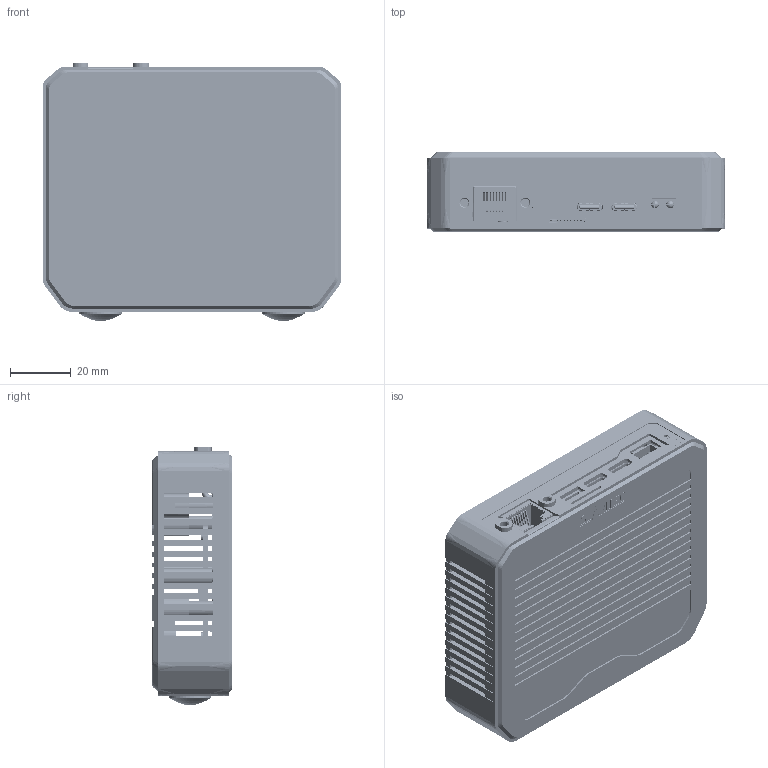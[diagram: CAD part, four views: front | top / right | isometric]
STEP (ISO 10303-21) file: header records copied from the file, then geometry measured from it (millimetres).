
FILE_DESCRIPTION((''),'2;1');
FILE_NAME('A_ASM','2025-09-17T16:51:02',('qutao.huang'),(''),'CREO PARAMETRIC BY PTC INC, 2020154','CREO PARAMETRIC BY PTC INC, 2020154','');
FILE_SCHEMA(('AUTOMOTIVE_DESIGN { 1 0 10303 214 1 1 1 1 }'));
Products named in the file (107): M1_4X8__X2_53415B57570659345E_1; M12_X2_516873BB7483955C5934_X_4; M12_X2_516873BB7483955C5934_X_6; M12_X2_516873BB7483955C5934_X_7; M12_X2_516873BB7483955C5934_X_5_ASM; _X2_955C59345E955EA7_X0_-HY-1_1; BOZI_GLUE_1; SC132GS-PLCC_1; 132GS-M12_X2_51686CE2644450CF_1_ASM; ARRC-FIREFLY-_X2_644450CF5934_1; BODY; 132GS-IMU_X2_677F_X0__SOLID_1_1; 132GS-IMU_X2_677F_X0__SOLID_2_1; 132GS-IMU_X2_677F_X0__SOLID_3_1; 132GS-IMU_X2_677F_X0__SOLID_5_1; 132GS-IMU_X2_677F_X0__SOLID_4_1; 132GS-IMU_X2_677F_X0__SOLID_6_1; 132GS-IMU_X2_677F_X0__SOLID_7_1; 132GS-IMU_X2_677F_X0__SOLID_9_1; 132GS-IMU_X2_677F_X0__SOLID_8_1; 132GS-IMU_X2_677F_X0__SOLID_10_; 132GS-IMU_X2_677F_X0__SOLID_11_; 132GS-IMU_X2_677F_X0__SOLID_12_; 132GS-IMU_X2_677F_X0__SOLID_13_; 132GS-IMU_X2_677F_X0__SOLID_14_; 132GS-IMU_X2_677F_X0__SOLID_15_; 132GS-IMU_X2_677F_X0__SOLID_16_; 132GS-IMU_X2_677F_X0__SOLID_17_; 132GS-IMU_X2_677F_X0__SOLID_19_; 132GS-IMU_X2_677F_X0__SOLID_20_; 132GS-IMU_X2_677F_X0__SOLID_21_; 132GS-IMU_X2_677F_X0__SOLID_22_; 132GS-IMU_X2_677F_X0__SOLID_23_; 132GS-IMU_X2_677F_X0__SOLID_24_; 132GS-IMU_X2_677F_X0__SOLID_25_; 132GS-IMU_X2_677F_X0__SOLID_26_; 132GS-IMU_X2_677F_X0__SOLID_ASM_ASM; ARRC_FF-3588S_DVT50_X2_5957_X_1_ASM; AURORA_DVT200_AC0_ASM_1_ASM; ASSEMBLY_ASM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
Assembly tree (110 placements, depth 7):
  A_ASM
    CARMARE_ASM
      AURORA_DVT200_AC0_ASM_1_ASM
        ARRC_FF-3588S_DVT50_X2_5957_X_1_ASM
          M1_4X8__X2_53415B57570659345E_1  x4
          132GS-M12_X2_51686CE2644450CF_1_ASM  x2
            M12_X2_516873BB7483955C5934_X_5_ASM
              M12_X2_516873BB7483955C5934_X_4
              M12_X2_516873BB7483955C5934_X_6
              M12_X2_516873BB7483955C5934_X_7
            _X2_955C59345E955EA7_X0_-HY-1_1
            BOZI_GLUE_1
            SC132GS-PLCC_1
          ARRC-FIREFLY-_X2_644450CF5934_1
          BODY
          132GS-IMU_X2_677F_X0__SOLID_ASM_ASM
            132GS-IMU_X2_677F_X0__SOLID_1_1
            132GS-IMU_X2_677F_X0__SOLID_2_1
            132GS-IMU_X2_677F_X0__SOLID_3_1
            132GS-IMU_X2_677F_X0__SOLID_5_1
            132GS-IMU_X2_677F_X0__SOLID_4_1
            132GS-IMU_X2_677F_X0__SOLID_6_1
            132GS-IMU_X2_677F_X0__SOLID_7_1
            132GS-IMU_X2_677F_X0__SOLID_9_1
            132GS-IMU_X2_677F_X0__SOLID_8_1
            132GS-IMU_X2_677F_X0__SOLID_10_
            132GS-IMU_X2_677F_X0__SOLID_11_
            132GS-IMU_X2_677F_X0__SOLID_12_
            132GS-IMU_X2_677F_X0__SOLID_13_
            132GS-IMU_X2_677F_X0__SOLID_14_
            132GS-IMU_X2_677F_X0__SOLID_15_
            132GS-IMU_X2_677F_X0__SOLID_16_
            132GS-IMU_X2_677F_X0__SOLID_17_
            132GS-IMU_X2_677F_X0__SOLID_19_
            132GS-IMU_X2_677F_X0__SOLID_20_
            132GS-IMU_X2_677F_X0__SOLID_21_
            132GS-IMU_X2_677F_X0__SOLID_22_
            132GS-IMU_X2_677F_X0__SOLID_23_
            132GS-IMU_X2_677F_X0__SOLID_24_
            132GS-IMU_X2_677F_X0__SOLID_25_
            132GS-IMU_X2_677F_X0__SOLID_26_
      FPC_687112182122_ASM
        ASSEMBLY_ASM
    PCBA_ASM_ASM
      PCB
      TF_CARD
      PRT0007
      RJ45__ASM
        860001_ASM_26_ASM
          86-0002_14
          86-0003_33
      EASYEDA_PCB_MODEL_8G4X_ASM
        TOPCOPPER_8G4X
        BOTTOMCOPPER_8G4X
        TOPFPCSTIFFENER_8G4X
        BOTTOMFPCSTIFFENER_8G4X
      LADAR_CNT
      KUO
      TOP_DXF
      PRT0010
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Bounding box: 98.1 x 26 x 84.8 mm (x, y, z)
Volume: 63419.9 mm3; surface area: 103863.5 mm2
Topology: 93 solids, 188 shells, 14414 faces, 41504 edges, 27385 vertices
Faces by surface type: plane 9650, cylinder 3863, extrusion 329, bspline 278, cone 144, torus 111, sphere 39
Entity records: 558839 total; most frequent: CARTESIAN_POINT 114790, ORIENTED_EDGE 78673, DIRECTION 72166, EDGE_CURVE 39674, VECTOR 30450, LINE 30121, VERTEX_POINT 26177, AXIS2_PLACEMENT_3D 20858
